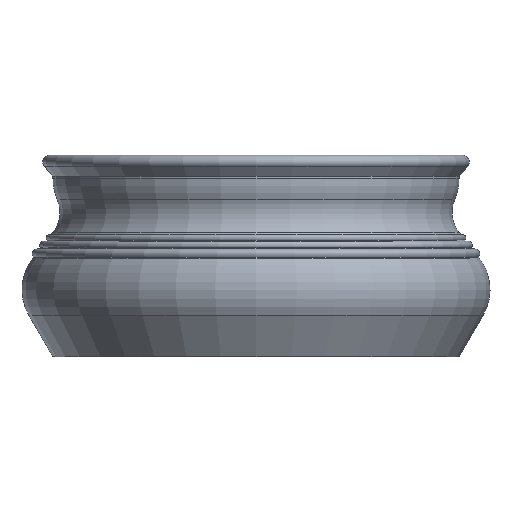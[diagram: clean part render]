
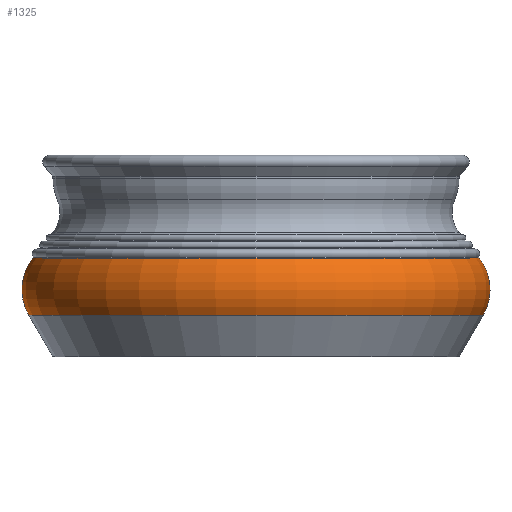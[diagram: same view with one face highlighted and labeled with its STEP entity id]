
A CAD part, front view. The second image highlights one B-rep face of the part: STEP entity #1325.
In plain terms, the highlighted toroidal (fillet/blend) face has major radius 135.901 mm and minor radius 38.099 mm.
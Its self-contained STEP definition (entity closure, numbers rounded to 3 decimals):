
#22=TOROIDAL_SURFACE('',#1505,135.901,38.099);
#166=FACE_OUTER_BOUND('',#284,.T.);
#284=EDGE_LOOP('',(#1208,#1209,#1210,#1211));
#526=CIRCLE('',#1467,168.883);
#549=CIRCLE('',#1506,165.889);
#550=CIRCLE('',#1507,38.099);
#653=VERTEX_POINT('',#2240);
#669=VERTEX_POINT('',#2303);
#818=EDGE_CURVE('',#653,#653,#526,.T.);
#849=EDGE_CURVE('',#669,#669,#549,.T.);
#850=EDGE_CURVE('',#669,#653,#550,.T.);
#1208=ORIENTED_EDGE('',*,*,#849,.F.);
#1209=ORIENTED_EDGE('',*,*,#850,.T.);
#1210=ORIENTED_EDGE('',*,*,#818,.T.);
#1211=ORIENTED_EDGE('',*,*,#850,.F.);
#1325=ADVANCED_FACE('',(#166),#22,.T.);
#1467=AXIS2_PLACEMENT_3D('',#2241,#1837,#1838);
#1505=AXIS2_PLACEMENT_3D('',#2302,#1921,#1922);
#1506=AXIS2_PLACEMENT_3D('',#2304,#1923,#1924);
#1507=AXIS2_PLACEMENT_3D('',#2305,#1925,#1926);
#1837=DIRECTION('center_axis',(0.,0.,1.));
#1838=DIRECTION('ref_axis',(1.,0.,0.));
#1921=DIRECTION('center_axis',(0.,0.,1.));
#1922=DIRECTION('ref_axis',(1.,0.,0.));
#1923=DIRECTION('center_axis',(0.,0.,1.));
#1924=DIRECTION('ref_axis',(1.,0.,0.));
#1925=DIRECTION('center_axis',(0.,-1.,0.));
#1926=DIRECTION('ref_axis',(-1.,0.,0.));
#2240=CARTESIAN_POINT('',(-168.883,0.,30.929));
#2241=CARTESIAN_POINT('Origin',(0.,0.,30.929));
#2302=CARTESIAN_POINT('Origin',(0.,0.,50.));
#2303=CARTESIAN_POINT('',(-165.889,0.,73.5));
#2304=CARTESIAN_POINT('Origin',(0.,0.,73.5));
#2305=CARTESIAN_POINT('Origin',(-135.901,0.,
50.));
